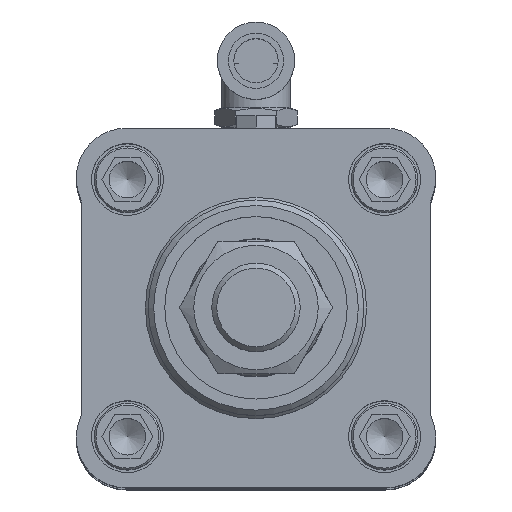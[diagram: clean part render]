
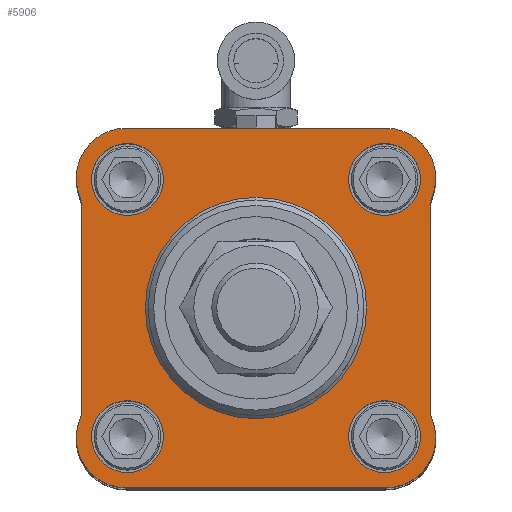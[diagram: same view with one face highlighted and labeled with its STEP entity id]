
A CAD part, top view. The second image highlights one B-rep face of the part: STEP entity #5906.
In plain terms, the highlighted planar face has unit normal (0, 0, 1) as drawn and (-1, 0, 0) by its records, which use the part's own axes.
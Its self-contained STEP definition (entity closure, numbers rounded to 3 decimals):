
#299=LINE('',#8686,#555);
#304=LINE('',#8704,#560);
#309=LINE('',#8722,#565);
#314=LINE('',#8740,#570);
#555=VECTOR('',#7330,1000.);
#560=VECTOR('',#7349,1000.);
#565=VECTOR('',#7368,1000.);
#570=VECTOR('',#7387,1000.);
#725=PLANE('',#6368);
#1437=ORIENTED_EDGE('',*,*,#2177,.T.);
#1438=ORIENTED_EDGE('',*,*,#2178,.T.);
#1439=ORIENTED_EDGE('',*,*,#2179,.T.);
#1440=ORIENTED_EDGE('',*,*,#2180,.T.);
#1441=ORIENTED_EDGE('',*,*,#2136,.F.);
#1442=ORIENTED_EDGE('',*,*,#2143,.F.);
#1443=ORIENTED_EDGE('',*,*,#2176,.F.);
#1444=ORIENTED_EDGE('',*,*,#2173,.T.);
#1445=ORIENTED_EDGE('',*,*,#2170,.F.);
#1446=ORIENTED_EDGE('',*,*,#2167,.T.);
#1447=ORIENTED_EDGE('',*,*,#2164,.F.);
#1448=ORIENTED_EDGE('',*,*,#2161,.F.);
#1449=ORIENTED_EDGE('',*,*,#2158,.F.);
#1450=ORIENTED_EDGE('',*,*,#2155,.T.);
#1451=ORIENTED_EDGE('',*,*,#2152,.F.);
#1452=ORIENTED_EDGE('',*,*,#2149,.T.);
#1453=ORIENTED_EDGE('',*,*,#2146,.F.);
#2136=EDGE_CURVE('',#2591,#2591,#2874,.F.);
#2143=EDGE_CURVE('',#2598,#2599,#299,.T.);
#2146=EDGE_CURVE('',#2599,#2601,#2880,.T.);
#2149=EDGE_CURVE('',#2603,#2601,#2882,.T.);
#2152=EDGE_CURVE('',#2603,#2605,#304,.T.);
#2155=EDGE_CURVE('',#2607,#2605,#2884,.T.);
#2158=EDGE_CURVE('',#2607,#2609,#2886,.T.);
#2161=EDGE_CURVE('',#2609,#2611,#309,.T.);
#2164=EDGE_CURVE('',#2611,#2613,#2888,.T.);
#2167=EDGE_CURVE('',#2615,#2613,#2890,.T.);
#2170=EDGE_CURVE('',#2615,#2617,#314,.T.);
#2173=EDGE_CURVE('',#2619,#2617,#2892,.T.);
#2176=EDGE_CURVE('',#2619,#2598,#2894,.T.);
#2177=EDGE_CURVE('',#2620,#2620,#2895,.T.);
#2178=EDGE_CURVE('',#2621,#2621,#2896,.T.);
#2179=EDGE_CURVE('',#2622,#2622,#2897,.T.);
#2180=EDGE_CURVE('',#2623,#2623,#2898,.T.);
#2591=VERTEX_POINT('',#8667);
#2598=VERTEX_POINT('',#8685);
#2599=VERTEX_POINT('',#8687);
#2601=VERTEX_POINT('',#8693);
#2603=VERTEX_POINT('',#8699);
#2605=VERTEX_POINT('',#8705);
#2607=VERTEX_POINT('',#8711);
#2609=VERTEX_POINT('',#8717);
#2611=VERTEX_POINT('',#8723);
#2613=VERTEX_POINT('',#8729);
#2615=VERTEX_POINT('',#8735);
#2617=VERTEX_POINT('',#8741);
#2619=VERTEX_POINT('',#8747);
#2620=VERTEX_POINT('',#8754);
#2621=VERTEX_POINT('',#8756);
#2622=VERTEX_POINT('',#8758);
#2623=VERTEX_POINT('',#8760);
#2874=CIRCLE('',#6331,20.);
#2880=CIRCLE('',#6343,9.);
#2882=CIRCLE('',#6346,4.5);
#2884=CIRCLE('',#6350,4.5);
#2886=CIRCLE('',#6353,9.);
#2888=CIRCLE('',#6357,9.);
#2890=CIRCLE('',#6360,4.5);
#2892=CIRCLE('',#6364,4.5);
#2894=CIRCLE('',#6367,9.);
#2895=CIRCLE('',#6369,6.5);
#2896=CIRCLE('',#6370,6.5);
#2897=CIRCLE('',#6371,6.5);
#2898=CIRCLE('',#6372,6.5);
#3243=EDGE_LOOP('',(#1437));
#3244=EDGE_LOOP('',(#1438));
#3245=EDGE_LOOP('',(#1439));
#3246=EDGE_LOOP('',(#1440));
#3247=EDGE_LOOP('',(#1441));
#3248=EDGE_LOOP('',(#1442,#1443,#1444,#1445,#1446,#1447,#1448,#1449,#1450,
#1451,#1452,#1453));
#3701=FACE_BOUND('',#3243,.T.);
#3702=FACE_BOUND('',#3244,.T.);
#3703=FACE_BOUND('',#3245,.T.);
#3704=FACE_BOUND('',#3246,.T.);
#3705=FACE_BOUND('',#3247,.T.);
#3706=FACE_BOUND('',#3248,.T.);
#5906=ADVANCED_FACE('',(#3701,#3702,#3703,#3704,#3705,#3706),#725,.F.);
#6331=AXIS2_PLACEMENT_3D('',#8666,#7308,#7309);
#6343=AXIS2_PLACEMENT_3D('',#8692,#7336,#7337);
#6346=AXIS2_PLACEMENT_3D('',#8698,#7343,#7344);
#6350=AXIS2_PLACEMENT_3D('',#8710,#7355,#7356);
#6353=AXIS2_PLACEMENT_3D('',#8716,#7362,#7363);
#6357=AXIS2_PLACEMENT_3D('',#8728,#7374,#7375);
#6360=AXIS2_PLACEMENT_3D('',#8734,#7381,#7382);
#6364=AXIS2_PLACEMENT_3D('',#8746,#7393,#7394);
#6367=AXIS2_PLACEMENT_3D('',#8751,#7400,#7401);
#6368=AXIS2_PLACEMENT_3D('',#8752,#7402,#7403);
#6369=AXIS2_PLACEMENT_3D('',#8753,#7404,#7405);
#6370=AXIS2_PLACEMENT_3D('',#8755,#7406,#7407);
#6371=AXIS2_PLACEMENT_3D('',#8757,#7408,#7409);
#6372=AXIS2_PLACEMENT_3D('',#8759,#7410,#7411);
#7308=DIRECTION('',(1.,0.,0.));
#7309=DIRECTION('',(0.,0.,-1.));
#7330=DIRECTION('',(0.,-1.,0.));
#7336=DIRECTION('',(1.,0.,0.));
#7337=DIRECTION('',(0.,0.,-1.));
#7343=DIRECTION('',(1.,0.,0.));
#7344=DIRECTION('',(0.,0.,-1.));
#7349=DIRECTION('',(0.,0.,-1.));
#7355=DIRECTION('',(1.,0.,0.));
#7356=DIRECTION('',(0.,0.,-1.));
#7362=DIRECTION('',(1.,0.,0.));
#7363=DIRECTION('',(0.,0.,-1.));
#7368=DIRECTION('',(0.,1.,0.));
#7374=DIRECTION('',(1.,0.,0.));
#7375=DIRECTION('',(0.,0.,-1.));
#7381=DIRECTION('',(1.,0.,0.));
#7382=DIRECTION('',(0.,0.,-1.));
#7387=DIRECTION('',(0.,0.,1.));
#7393=DIRECTION('',(1.,0.,0.));
#7394=DIRECTION('',(0.,0.,-1.));
#7400=DIRECTION('',(1.,0.,0.));
#7401=DIRECTION('',(0.,0.,-1.));
#7402=DIRECTION('',(1.,0.,0.));
#7403=DIRECTION('',(0.,0.,-1.));
#7404=DIRECTION('',(1.,0.,0.));
#7405=DIRECTION('',(0.,0.,-1.));
#7406=DIRECTION('',(1.,0.,0.));
#7407=DIRECTION('',(0.,0.,-1.));
#7408=DIRECTION('',(1.,0.,0.));
#7409=DIRECTION('',(0.,0.,-1.));
#7410=DIRECTION('',(1.,0.,0.));
#7411=DIRECTION('',(0.,0.,-1.));
#8666=CARTESIAN_POINT('',(-36.,0.,0.));
#8667=CARTESIAN_POINT('',(-36.,0.,-20.));
#8685=CARTESIAN_POINT('',(-36.,23.5,32.5));
#8686=CARTESIAN_POINT('',(-36.,23.5,32.5));
#8687=CARTESIAN_POINT('',(-36.,-23.5,32.5));
#8692=CARTESIAN_POINT('',(-36.,-23.5,23.5));
#8693=CARTESIAN_POINT('',(-36.,-31.833,20.101));
#8698=CARTESIAN_POINT('',(-36.,-36.,18.401));
#8699=CARTESIAN_POINT('',(-36.,-31.5,18.401));
#8704=CARTESIAN_POINT('',(-36.,-31.5,18.401));
#8705=CARTESIAN_POINT('',(-36.,-31.5,-18.401));
#8710=CARTESIAN_POINT('',(-36.,-36.,-18.401));
#8711=CARTESIAN_POINT('',(-36.,-31.833,-20.101));
#8716=CARTESIAN_POINT('',(-36.,-23.5,-23.5));
#8717=CARTESIAN_POINT('',(-36.,-23.5,-32.5));
#8722=CARTESIAN_POINT('',(-36.,-23.5,-32.5));
#8723=CARTESIAN_POINT('',(-36.,23.5,-32.5));
#8728=CARTESIAN_POINT('',(-36.,23.5,-23.5));
#8729=CARTESIAN_POINT('',(-36.,31.833,-20.101));
#8734=CARTESIAN_POINT('',(-36.,36.,-18.401));
#8735=CARTESIAN_POINT('',(-36.,31.5,-18.401));
#8740=CARTESIAN_POINT('',(-36.,31.5,-18.401));
#8741=CARTESIAN_POINT('',(-36.,31.5,18.401));
#8746=CARTESIAN_POINT('',(-36.,36.,18.401));
#8747=CARTESIAN_POINT('',(-36.,31.833,20.101));
#8751=CARTESIAN_POINT('',(-36.,23.5,23.5));
#8752=CARTESIAN_POINT('',(-36.,-23.5,23.5));
#8753=CARTESIAN_POINT('',(-36.,-23.25,23.25));
#8754=CARTESIAN_POINT('',(-36.,-23.25,16.75));
#8755=CARTESIAN_POINT('',(-36.,-23.25,-23.25));
#8756=CARTESIAN_POINT('',(-36.,-23.25,-29.75));
#8757=CARTESIAN_POINT('',(-36.,23.25,-23.25));
#8758=CARTESIAN_POINT('',(-36.,23.25,-29.75));
#8759=CARTESIAN_POINT('',(-36.,23.25,23.25));
#8760=CARTESIAN_POINT('',(-36.,23.25,16.75));
